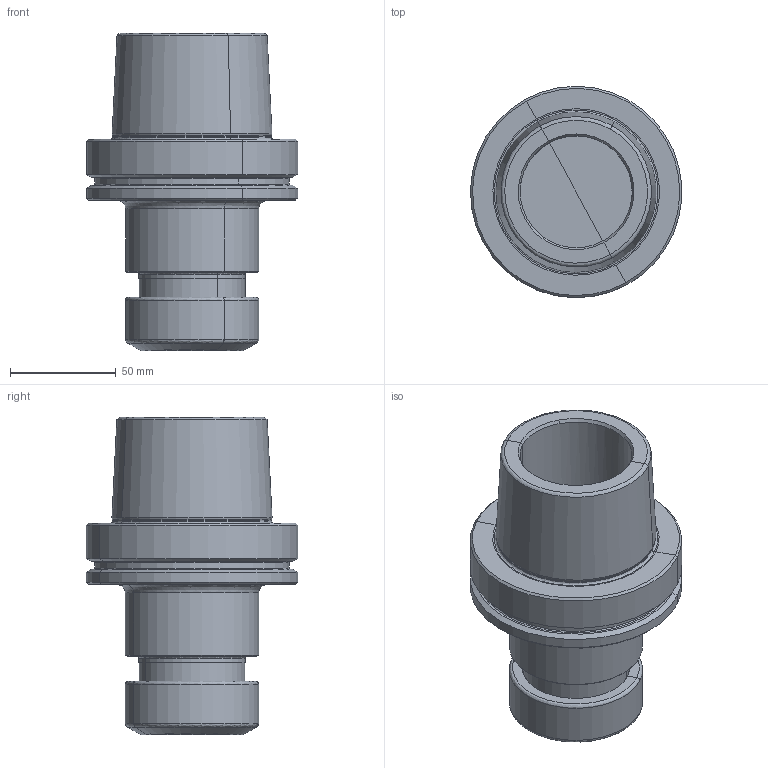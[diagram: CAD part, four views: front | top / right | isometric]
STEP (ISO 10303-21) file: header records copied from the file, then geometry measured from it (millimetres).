
FILE_DESCRIPTION(('CATIA V5 STEP','CAx-IF Rec.Pracs.--- Model Styling and Organization---1.2---2011-12-15'),'2;1');
FILE_NAME('\\nas01\drv1\utils\eitdev\rte\eit\transmagicconvert\db\out\635923326235074008\4561157 L.stp','2016-02-29T06:50:37+00:00',('none'),('none'),'CATIA Version 5 Release 21 SP 5 (IN-10)','CATIA V5 STEP AP214','none');
FILE_SCHEMA(('AUTOMOTIVE_DESIGN { 1 0 10303 214 1 1 1 1 }'));
Length unit declared in the file: millimetre
Products named in the file (1): HSK A 100 ER40X100
Bounding box: 99.82 x 99.99 x 150.03 mm (x, y, z)
Volume: 438175 mm3; surface area: 69230 mm2
Topology: 1 solids, 1 shells, 109 faces, 218 edges, 111 vertices
Faces by surface type: revolution 85, plane 24
Entity records: 3366 total; most frequent: CARTESIAN_POINT 1362, ORIENTED_EDGE 436, DIRECTION 248, EDGE_CURVE 218, B_SPLINE_CURVE_WITH_KNOTS 170, AXIS2_PLACEMENT_3D 127, CIRCLE 111, VERTEX_POINT 111
